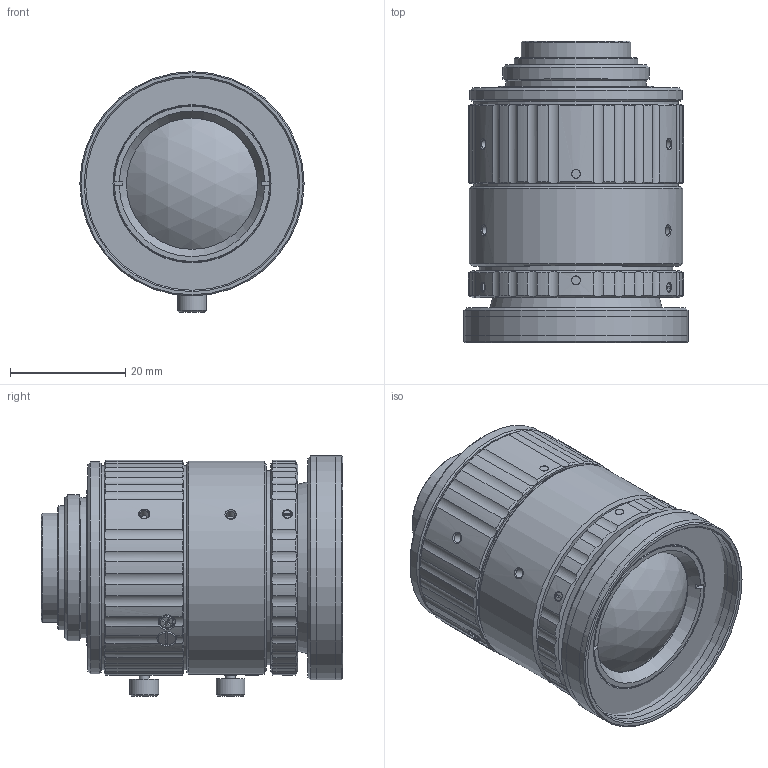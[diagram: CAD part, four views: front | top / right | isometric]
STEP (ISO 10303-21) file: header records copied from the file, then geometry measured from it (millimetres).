
FILE_DESCRIPTION(/* description */ ('Unknown'),/* implementation_level */ '2;1');
FILE_NAME(/* name */ 'V1226-MPZ_210401',/* time_stamp */ '2021-04-01T10:33:29+09:00',/* author */ ('Unknown'),/* organization */ ('Unknown'),/* preprocessor_version */ 'ST-DEVELOPER v16.7',/* originating_system */ 'DEX',/* authorisation */ $);
FILE_SCHEMA (('AUTOMOTIVE_DESIGN {1 0 10303 214 3 1 1}'));
Length unit declared in the file: millimetre
Products named in the file (3): V1226-MPZ_210401; V1226-MPZ_Infinity; V1226-MPZ_Mechnical limit
Assembly tree (2 placements, depth 2):
  V1226-MPZ_210401
    V1226-MPZ_Infinity
    V1226-MPZ_Mechnical limit
Bounding box: 39 x 52.46 x 41.85 mm (x, y, z)
Surface area: 21038.6 mm2
Topology: 2 solids, 16 shells, 869 faces, 2164 edges, 1403 vertices
Faces by surface type: cylinder 348, plane 322, cone 189, torus 6, sphere 4
Full cylindrical faces by diameter (mm): 1.321 x6, 1.5 x4, 1.567 x8, 1.7 x6, 1.8 x8, 2 x4, 2.5 x4, 2.8 x2, 3 x10, 3.4 x2, 3.5 x6, 4.999 x4, 15.3 x2, 19 x2, 21.498 x2, 22.8 x2, 24.398 x2, 25.4 x2, 33.7 x2, 35.5 x4, 36.1 x4, 36.9 x2, 37 x2, 37.1 x2, 37.5 x2, 39 x2
Entity records: 31085 total; most frequent: CARTESIAN_POINT 5746, DIRECTION 3874, ORIENTED_EDGE 3802, EDGE_CURVE 1901, AXIS2_PLACEMENT_3D 1505, VERTEX_POINT 1323, EDGE_LOOP 1148, FACE_BOUND 1148
